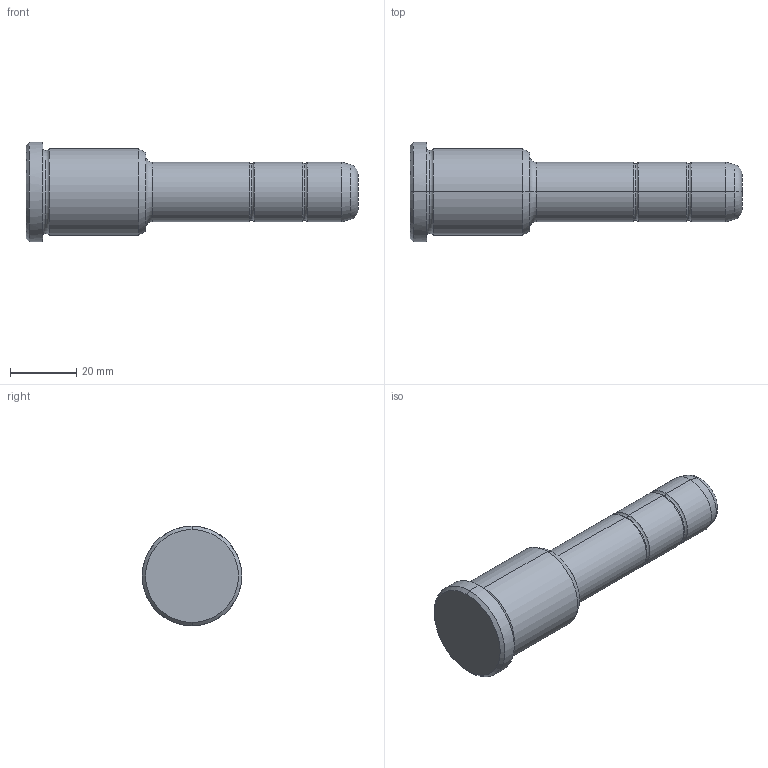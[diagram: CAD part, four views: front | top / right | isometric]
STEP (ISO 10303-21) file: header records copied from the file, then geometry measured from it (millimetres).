
FILE_DESCRIPTION(('CATIA V5 STEP Exchange'),'2;1');
FILE_NAME('C:\Users\Utente\Desktop\IO LAVORO\3D X SITO CF\X SITO\PLASTICA\351\351-18X36X100.stp','2021-08-19T12:41:19+00:00',('none'),('none'),'CATIA Version 5 Release 20 GA (IN-10)','CATIA V5 STEP AP203','none');
FILE_SCHEMA(('CONFIG_CONTROL_DESIGN'));
Length unit declared in the file: millimetre
Products named in the file (1): 351-18X36X100
Bounding box: 100 x 30 x 30 mm (x, y, z)
Volume: 35846.9 mm3; surface area: 7805.8 mm2
Topology: 1 solids, 1 shells, 36 faces, 102 edges, 70 vertices
Faces by surface type: torus 16, cylinder 10, cone 6, plane 4
Entity records: 1292 total; most frequent: CARTESIAN_POINT 321, ORIENTED_EDGE 204, DIRECTION 166, AXIS2_PLACEMENT_3D 115, EDGE_CURVE 102, CIRCLE 78, VERTEX_POINT 70, EDGE_LOOP 38
